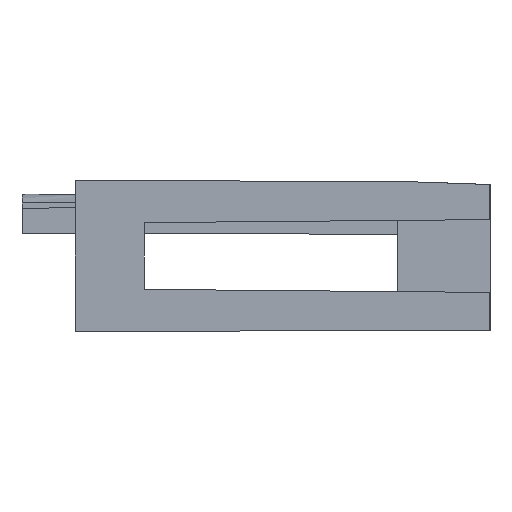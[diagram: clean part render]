
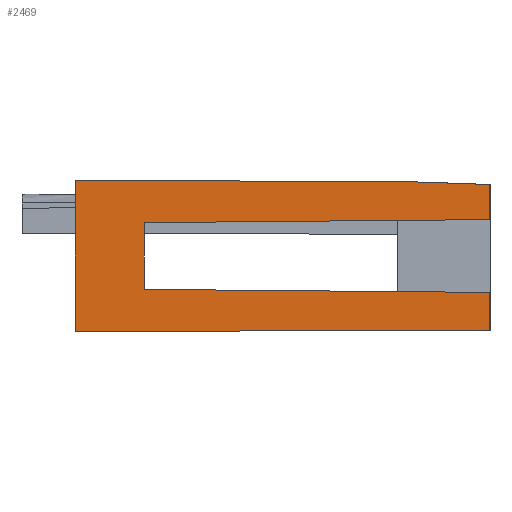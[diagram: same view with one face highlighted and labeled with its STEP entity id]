
A CAD part, left-side view. The second image highlights one B-rep face of the part: STEP entity #2469.
In plain terms, the highlighted planar face has unit normal (-1, 0.002, 0).
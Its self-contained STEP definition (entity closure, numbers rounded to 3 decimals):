
#41=DIRECTION('',(-0.002,-1.,0.002));
#42=VECTOR('',#41,9.);
#43=CARTESIAN_POINT('',(-8.884,9.,-1.635));
#44=LINE('',#43,#42);
#61=DIRECTION('',(0.,0.,1.));
#62=VECTOR('',#61,0.828);
#63=CARTESIAN_POINT('',(-8.9,0.,-1.619));
#64=LINE('',#63,#62);
#77=DIRECTION('',(0.,0.,1.));
#78=VECTOR('',#77,0.762);
#79=CARTESIAN_POINT('',(-8.9,0.,0.788));
#80=LINE('',#79,#78);
#713=DIRECTION('',(-0.002,-1.,-0.002));
#714=VECTOR('',#713,7.);
#715=CARTESIAN_POINT('',(-8.884,9.,1.631));
#716=LINE('',#715,#714);
#765=DIRECTION('',(-0.002,-0.999,-0.035));
#766=VECTOR('',#765,2.001);
#767=CARTESIAN_POINT('',(-8.897,2.,1.619));
#768=LINE('',#767,#766);
#881=DIRECTION('',(0.002,1.,-0.009));
#882=VECTOR('',#881,7.5);
#883=CARTESIAN_POINT('',(-8.9,0.,0.788));
#884=LINE('',#883,#882);
#885=DIRECTION('',(0.,0.,1.));
#886=VECTOR('',#885,1.448);
#887=CARTESIAN_POINT('',(-8.887,7.5,-0.726));
#888=LINE('',#887,#886);
#889=DIRECTION('',(0.002,1.,0.009));
#890=VECTOR('',#889,7.5);
#891=CARTESIAN_POINT('',(-8.9,0.,-0.791));
#892=LINE('',#891,#890);
#893=DIRECTION('',(0.,0.,1.));
#894=VECTOR('',#893,3.266);
#895=CARTESIAN_POINT('',(-8.884,9.,-1.635));
#896=LINE('',#895,#894);
#933=CARTESIAN_POINT('',(-8.9,0.,1.549));
#935=VERTEX_POINT('',#933);
#937=CARTESIAN_POINT('',(-8.884,9.,1.631));
#938=CARTESIAN_POINT('',(-8.897,2.,1.619));
#939=VERTEX_POINT('',#937);
#940=VERTEX_POINT('',#938);
#945=CARTESIAN_POINT('',(-8.884,9.,-1.635));
#946=CARTESIAN_POINT('',(-8.9,0.,-1.619));
#947=VERTEX_POINT('',#945);
#948=VERTEX_POINT('',#946);
#999=CARTESIAN_POINT('',(-8.9,0.,-0.791));
#1000=VERTEX_POINT('',#999);
#1001=CARTESIAN_POINT('',(-8.9,0.,0.788));
#1002=VERTEX_POINT('',#1001);
#1007=CARTESIAN_POINT('',(-8.887,7.5,-0.726));
#1008=CARTESIAN_POINT('',(-8.887,7.5,0.722));
#1009=VERTEX_POINT('',#1007);
#1010=VERTEX_POINT('',#1008);
#2451=CARTESIAN_POINT('',(-8.9,0.,-1.863));
#2452=DIRECTION('',(-1.,0.002,0.));
#2453=DIRECTION('',(0.,0.,-1.));
#2454=AXIS2_PLACEMENT_3D('',#2451,#2452,#2453);
#2455=PLANE('',#2454);
#2456=ORIENTED_EDGE('',*,*,#2175,.T.);
#2457=ORIENTED_EDGE('',*,*,#2193,.T.);
#2458=ORIENTED_EDGE('',*,*,#1295,.F.);
#2460=ORIENTED_EDGE('',*,*,#2459,.T.);
#2461=ORIENTED_EDGE('',*,*,#2413,.F.);
#2462=ORIENTED_EDGE('',*,*,#2440,.F.);
#2463=ORIENTED_EDGE('',*,*,#1287,.F.);
#2464=ORIENTED_EDGE('',*,*,#1254,.F.);
#2466=ORIENTED_EDGE('',*,*,#2465,.T.);
#2467=EDGE_LOOP('',(#2456,#2457,#2458,#2460,#2461,#2462,#2463,#2464,#2466));
#2468=FACE_OUTER_BOUND('',#2467,.F.);
#2469=ADVANCED_FACE('',(#2468),#2455,.T.);
#1254=EDGE_CURVE('',#947,#948,#44,.T.);
#1287=EDGE_CURVE('',#948,#1000,#64,.T.);
#1295=EDGE_CURVE('',#1002,#935,#80,.T.);
#2175=EDGE_CURVE('',#939,#940,#716,.T.);
#2193=EDGE_CURVE('',#940,#935,#768,.T.);
#2413=EDGE_CURVE('',#1009,#1010,#888,.T.);
#2440=EDGE_CURVE('',#1000,#1009,#892,.T.);
#2459=EDGE_CURVE('',#1002,#1010,#884,.T.);
#2465=EDGE_CURVE('',#947,#939,#896,.T.);
